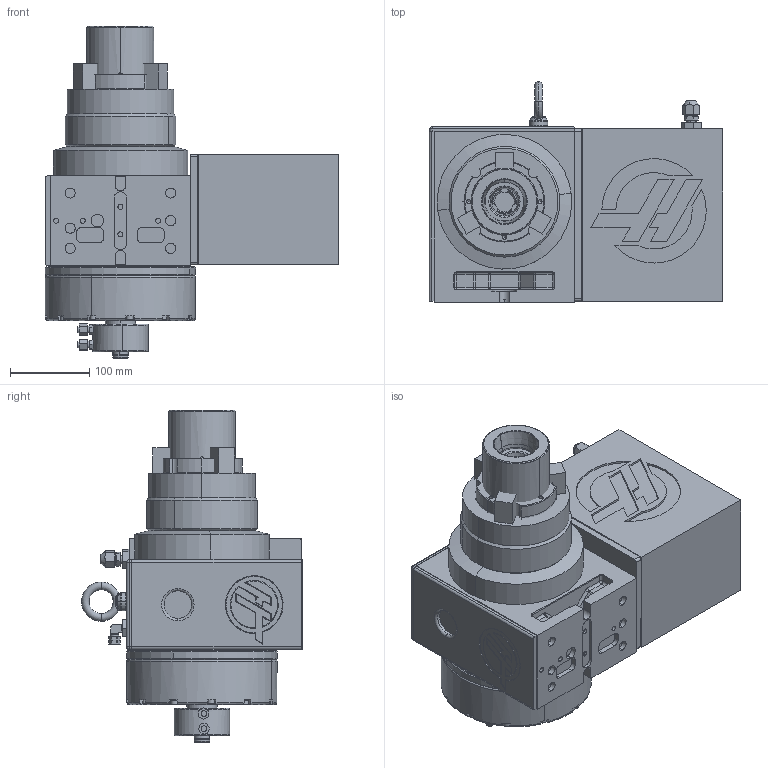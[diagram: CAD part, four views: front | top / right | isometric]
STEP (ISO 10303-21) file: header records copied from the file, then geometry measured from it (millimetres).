
FILE_DESCRIPTION (( 'STEP AP203' ), '1' );
FILE_NAME ('HQDA5_7_2025.STEP', '2025-07-24T20:55:15', ( '' ), ( '' ), 'SwSTEP 2.0', 'SolidWorks 2023', '' );
FILE_SCHEMA (( 'CONFIG_CONTROL_DESIGN' ));
Length unit declared in the file: inch
Products named in the file (8): HQDA5- 5 Collet Closer; HQDA5- A2-5 Spindle Nose; HQDA5_7_2025; HQDA5- Body & Housing; HQDA5- 16C Collet Chuck; HQDA5- Quick Change Collet; HQDA5- 3-Jaw Chuck; HQDA5-3J Collet Chuck
Assembly tree (7 placements, depth 2):
  HQDA5_7_2025
    HQDA5- Body & Housing
    HQDA5- A2-5 Spindle Nose
    HQDA5- 3-Jaw Chuck
    HQDA5- 5 Collet Closer
    HQDA5- 16C Collet Chuck
    HQDA5- Quick Change Collet
    HQDA5-3J Collet Chuck
Bounding box: 371.43 x 279.15 x 419.68 mm (x, y, z)
Volume: 17034281.2 mm3; surface area: 1103247 mm2
Topology: 10 solids, 21 shells, 1859 faces, 4466 edges, 2752 vertices
Faces by surface type: cylinder 766, plane 607, cone 344, torus 93, bspline 31, sphere 18
Entity records: 62818 total; most frequent: CARTESIAN_POINT 18492, DIRECTION 9480, ORIENTED_EDGE 8804, EDGE_CURVE 4402, AXIS2_PLACEMENT_3D 3752, VERTEX_POINT 2752, EDGE_LOOP 2152, LINE 1976
